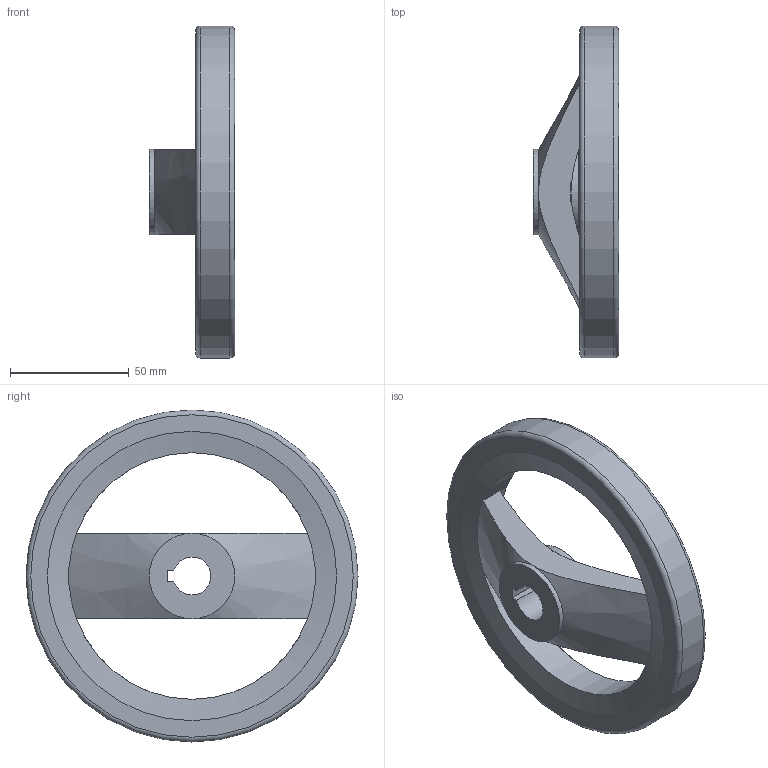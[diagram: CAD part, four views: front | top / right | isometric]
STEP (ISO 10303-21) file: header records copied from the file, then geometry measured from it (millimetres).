
FILE_DESCRIPTION( ( 'STEP AP203' ), '1' );
FILE_NAME( 'C:/Temp/Ganter_Step_05_03_2020/data/1_3/gn_324/gn_324_k/gn_324_k_a/Handwheel, matt black GN 324-140-K16-A.stp', '2020-03-05T10:32:59', ( 'License CC BY-ND 4.0' ), ( 'CADENAS' ), ' ', 'PARTsolutions', ' ' );
FILE_SCHEMA( ( 'CONFIG_CONTROL_DESIGN' ) );
Length unit declared in the file: millimetre
Products named in the file (1): _Handwheel, matt black GN 324-140-K16-A
Bounding box: 36 x 140 x 140 mm (x, y, z)
Volume: 157362.5 mm3; surface area: 35887.2 mm2
Topology: 1 solids, 1 shells, 22 faces, 52 edges, 30 vertices
Faces by surface type: plane 9, cone 6, cylinder 5, torus 2
Full cylindrical faces by diameter (mm): 36 x2, 104 x1, 140 x1
Entity records: 752 total; most frequent: CARTESIAN_POINT 231, DIRECTION 102, ORIENTED_EDGE 86, AXIS2_PLACEMENT_3D 44, EDGE_CURVE 43, EDGE_LOOP 34, VERTEX_POINT 29, FACE_OUTER_BOUND 28
